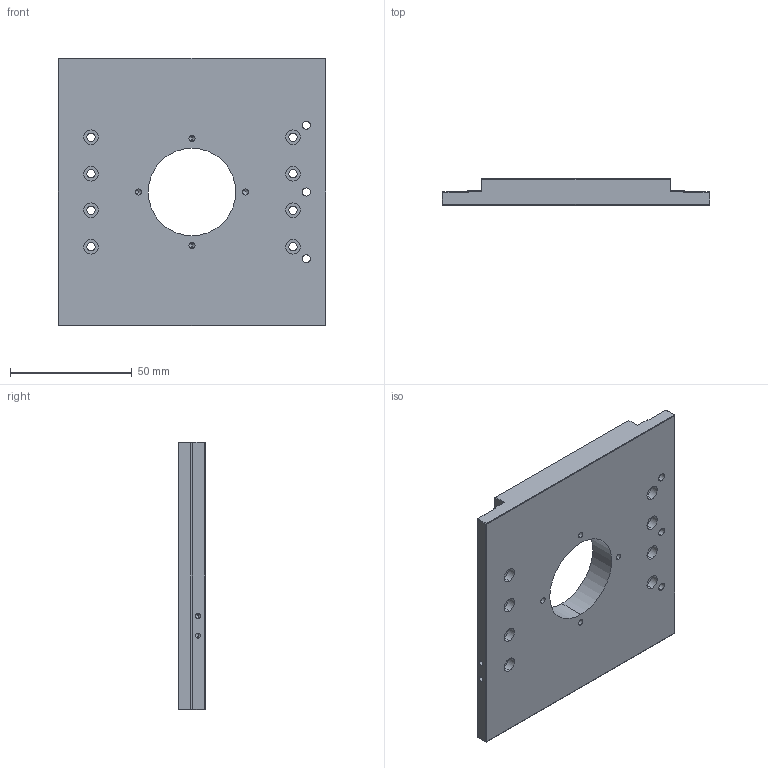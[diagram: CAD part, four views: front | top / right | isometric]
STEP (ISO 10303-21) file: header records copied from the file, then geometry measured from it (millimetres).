
FILE_DESCRIPTION (( 'STEP AP214' ), '1' );
FILE_NAME ('錨璃7.STEP', '2026-10-12T08:30:26', ( '' ), ( '' ), 'SwSTEP 2.0', 'SolidWorks 2024', '' );
FILE_SCHEMA (( 'AUTOMOTIVE_DESIGN' ));
Length unit declared in the file: millimetre
Products named in the file (1): 零件7
Bounding box: 110 x 11 x 110 mm (x, y, z)
Volume: 101785.4 mm3; surface area: 28835.7 mm2
Topology: 1 solids, 1 shells, 126 faces, 294 edges, 171 vertices
Faces by surface type: plane 58, cylinder 54, cone 14
Entity records: 3527 total; most frequent: DIRECTION 642, CARTESIAN_POINT 578, ORIENTED_EDGE 560, EDGE_CURVE 280, AXIS2_PLACEMENT_3D 235, VECTOR 172, LINE 172, VERTEX_POINT 171
